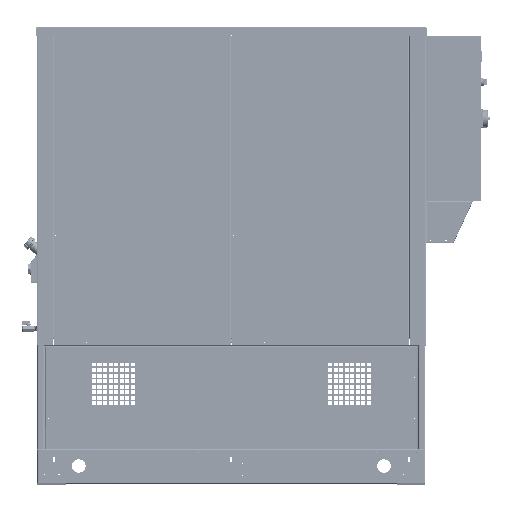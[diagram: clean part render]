
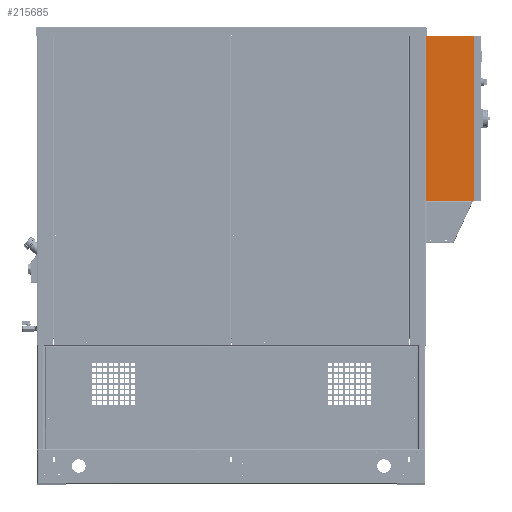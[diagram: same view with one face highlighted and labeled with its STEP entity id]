
A CAD part, top view. The second image highlights one B-rep face of the part: STEP entity #215685.
In plain terms, the highlighted planar face has unit normal (0, 0, 1) as drawn and (-1, 0, 0) by its records, which use the part's own axes.
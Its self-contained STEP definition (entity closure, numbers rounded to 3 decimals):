
#9588 = CARTESIAN_POINT ( 'NONE',  ( -200., 300., 87.5 ) ) ;
#9627 = LINE ( 'NONE', #106005, #245735 ) ;
#10446 = ORIENTED_EDGE ( 'NONE', *, *, #21815, .T. ) ;
#18868 = LINE ( 'NONE', #312811, #200106 ) ;
#21815 = EDGE_CURVE ( 'NONE', #30449, #46732, #247701, .T. ) ;
#30449 = VERTEX_POINT ( 'NONE', #35276 ) ;
#30797 = EDGE_CURVE ( 'NONE', #30449, #99895, #79158, .T. ) ;
#35276 = CARTESIAN_POINT ( 'NONE',  ( -200., 300., -87.5 ) ) ;
#46732 = VERTEX_POINT ( 'NONE', #217689 ) ;
#48025 = PLANE ( 'NONE',  #265420 ) ;
#50231 = CARTESIAN_POINT ( 'NONE',  ( -200., 300., -87.5 ) ) ;
#54201 = DIRECTION ( 'NONE',  ( 0., 0., -1. ) ) ;
#79158 = LINE ( 'NONE', #9588, #108714 ) ;
#99895 = VERTEX_POINT ( 'NONE', #198805 ) ;
#106005 = CARTESIAN_POINT ( 'NONE',  ( -200., -300., 87.5 ) ) ;
#108714 = VECTOR ( 'NONE', #246749, 1000. ) ;
#145982 = CARTESIAN_POINT ( 'NONE',  ( -200., 300., 87.5 ) ) ;
#149081 = DIRECTION ( 'NONE',  ( 1., 0., 0. ) ) ;
#167484 = ORIENTED_EDGE ( 'NONE', *, *, #218629, .T. ) ;
#173497 = DIRECTION ( 'NONE',  ( 0., -1., 0. ) ) ;
#198805 = CARTESIAN_POINT ( 'NONE',  ( -200., 300., 87.5 ) ) ;
#200106 = VECTOR ( 'NONE', #265373, 1000. ) ;
#203103 = CARTESIAN_POINT ( 'NONE',  ( -200., -300., 87.5 ) ) ;
#203470 = VECTOR ( 'NONE', #173497, 1000. ) ;
#215685 = ADVANCED_FACE ( 'NONE', ( #242417 ), #48025, .F. ) ;
#217689 = CARTESIAN_POINT ( 'NONE',  ( -200., -300., -87.5 ) ) ;
#218629 = EDGE_CURVE ( 'NONE', #46732, #277914, #9627, .T. ) ;
#219345 = ORIENTED_EDGE ( 'NONE', *, *, #297095, .F. ) ;
#223564 = ORIENTED_EDGE ( 'NONE', *, *, #30797, .F. ) ;
#242417 = FACE_OUTER_BOUND ( 'NONE', #252380, .T. ) ;
#245735 = VECTOR ( 'NONE', #278305, 1000. ) ;
#246749 = DIRECTION ( 'NONE',  ( 0., 0., 1. ) ) ;
#247701 = LINE ( 'NONE', #50231, #203470 ) ;
#252380 = EDGE_LOOP ( 'NONE', ( #167484, #219345, #223564, #10446 ) ) ;
#265373 = DIRECTION ( 'NONE',  ( 0., -1., 0. ) ) ;
#265420 = AXIS2_PLACEMENT_3D ( 'NONE', #145982, #149081, #54201 ) ;
#277914 = VERTEX_POINT ( 'NONE', #203103 ) ;
#278305 = DIRECTION ( 'NONE',  ( 0., 0., 1. ) ) ;
#297095 = EDGE_CURVE ( 'NONE', #99895, #277914, #18868, .T. ) ;
#312811 = CARTESIAN_POINT ( 'NONE',  ( -200., 300., 87.5 ) ) ;
